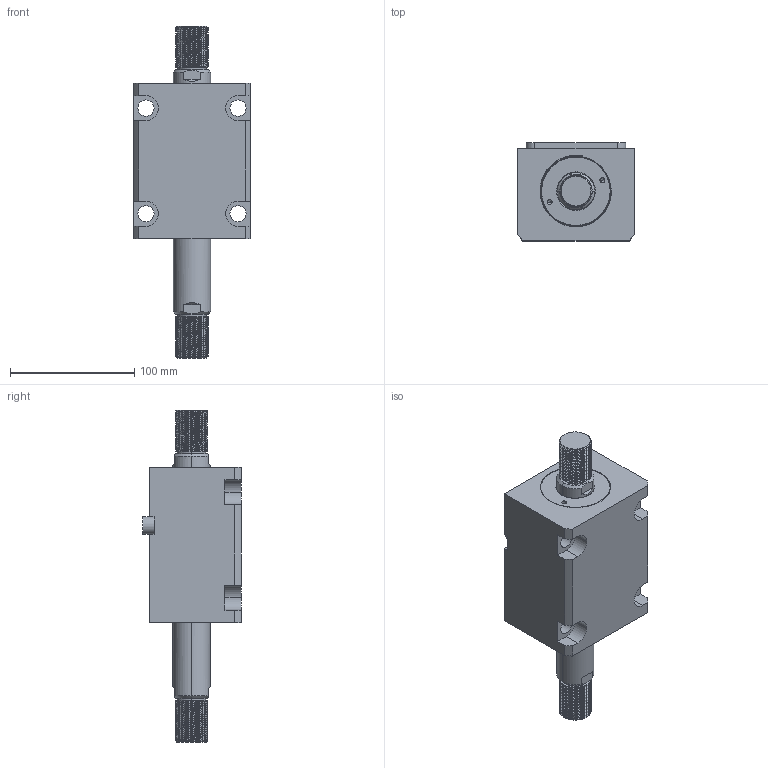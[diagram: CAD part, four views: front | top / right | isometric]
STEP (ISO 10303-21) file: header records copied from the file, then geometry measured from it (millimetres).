
FILE_DESCRIPTION (( 'STEP AP203' ), '1' );
FILE_NAME ('CHTB-LWM50-50W.STEP', '2018-05-22T07:56:13', ( '' ), ( '' ), 'SwSTEP 2.0', 'SolidWorks 2015', '' );
FILE_SCHEMA (( 'CONFIG_CONTROL_DESIGN' ));
Length unit declared in the file: millimetre
Products named in the file (4): CHTM-SDMA50QG; 掛极LWM50-50W; CHTB-LWM50-50W; 活塞杆LWM50-50W
Assembly tree (3 placements, depth 2):
  CHTB-LWM50-50W
    掛极LWM50-50W
    CHTM-SDMA50QG
    活塞杆LWM50-50W
Bounding box: 94 x 79 x 267 mm (x, y, z)
Volume: 838302 mm3; surface area: 133631.1 mm2
Topology: 3 solids, 3 shells, 302 faces, 837 edges, 557 vertices
Faces by surface type: cylinder 188, plane 62, cone 18, bspline 18, torus 16
Entity records: 19248 total; most frequent: CARTESIAN_POINT 11864, ORIENTED_EDGE 1666, DIRECTION 1265, EDGE_CURVE 833, VERTEX_POINT 557, AXIS2_PLACEMENT_3D 483, EDGE_LOOP 338, ADVANCED_FACE 302
